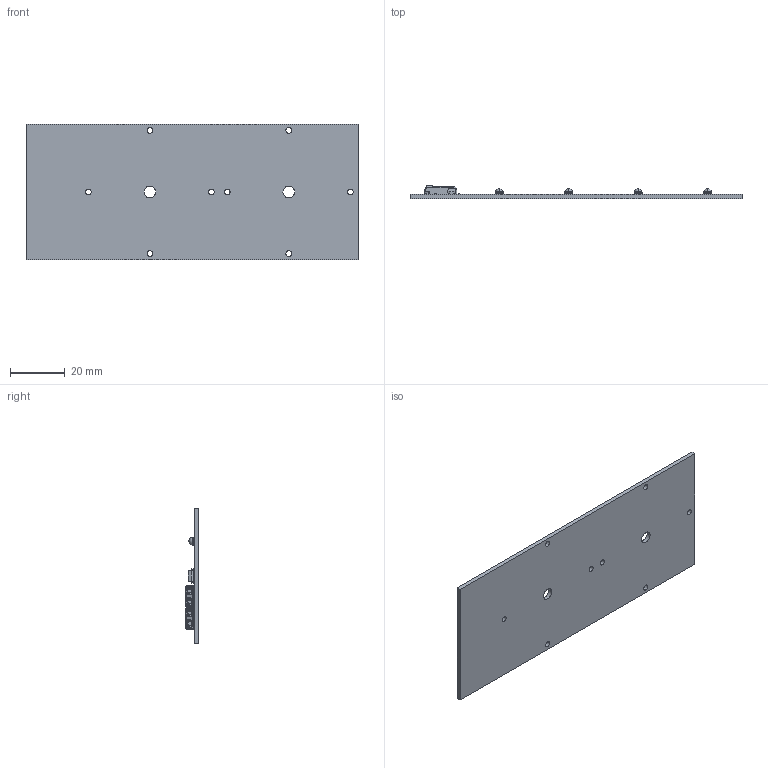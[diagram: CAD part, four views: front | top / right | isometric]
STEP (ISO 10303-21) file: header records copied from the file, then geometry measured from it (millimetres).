
FILE_DESCRIPTION((''),'2;1');
FILE_NAME('3D-MODEL_WU-M-541-SQ-8_ASM','2021-01-15T12:19:36',('msavic'),(''),'CREO PARAMETRIC BY PTC INC, 2016510','CREO PARAMETRIC BY PTC INC, 2016510','');
FILE_SCHEMA(('AUTOMOTIVE_DESIGN { 1 0 10303 214 1 1 1 1 }'));
Products named in the file (15): NEW_BAZA_WU-M-541-SQ5_8_DIODA_4; DIODA_WU-M-541-SQ5_4-8-12-16_2; KONEKTOR_MCC-SMD-2P__1; R0603_1; OTPORNIK_DO214AC__1; CE-ZEICHEN-6MM_2_4; CE-ZEICHEN-6MM001_2_4; VSO-LOGO-5MM_3_3; VSO-LOGO-5MM001_2_1_3; BUILT-IN_LED_MODULE-5MM004_2_2; BUILT-IN_LED_MODULE-5MM003_2_2; BUILT-IN_LED_MODULE-5MM002_2_2; BUILT-IN_LED_MODULE-5MM001_2_2; ASM_WU-M-541-SQ-8_ALL-ELEMENTS__ASM; 3D-MODEL_WU-M-541-SQ-8_ASM
Assembly tree (24 placements, depth 3):
  3D-MODEL_WU-M-541-SQ-8_ASM
    ASM_WU-M-541-SQ-8_ALL-ELEMENTS__ASM
      NEW_BAZA_WU-M-541-SQ5_8_DIODA_4
      DIODA_WU-M-541-SQ5_4-8-12-16_2  x8
      KONEKTOR_MCC-SMD-2P__1  x2
      R0603_1  x2
      OTPORNIK_DO214AC__1
      CE-ZEICHEN-6MM_2_4
      CE-ZEICHEN-6MM001_2_4
      VSO-LOGO-5MM_3_3
      VSO-LOGO-5MM001_2_1_3
      BUILT-IN_LED_MODULE-5MM004_2_2
      BUILT-IN_LED_MODULE-5MM003_2_2
      BUILT-IN_LED_MODULE-5MM002_2_2
      BUILT-IN_LED_MODULE-5MM001_2_2  x2
Bounding box: 121.4 x 4.9 x 49.5 mm (x, y, z)
Volume: 9043.9 mm3; surface area: 13714.7 mm2
Topology: 21 solids, 29 shells, 4755 faces, 13212 edges, 8668 vertices
Faces by surface type: plane 3848, cylinder 425, bspline 210, extrusion 108, cone 72, torus 52, sphere 40
Entity records: 160127 total; most frequent: CARTESIAN_POINT 32017, ORIENTED_EDGE 21588, DIRECTION 18019, EDGE_CURVE 10815, VECTOR 9501, LINE 9442, VERTEX_POINT 7153, PRESENTATION_STYLE_ASSIGNMENT 4731
